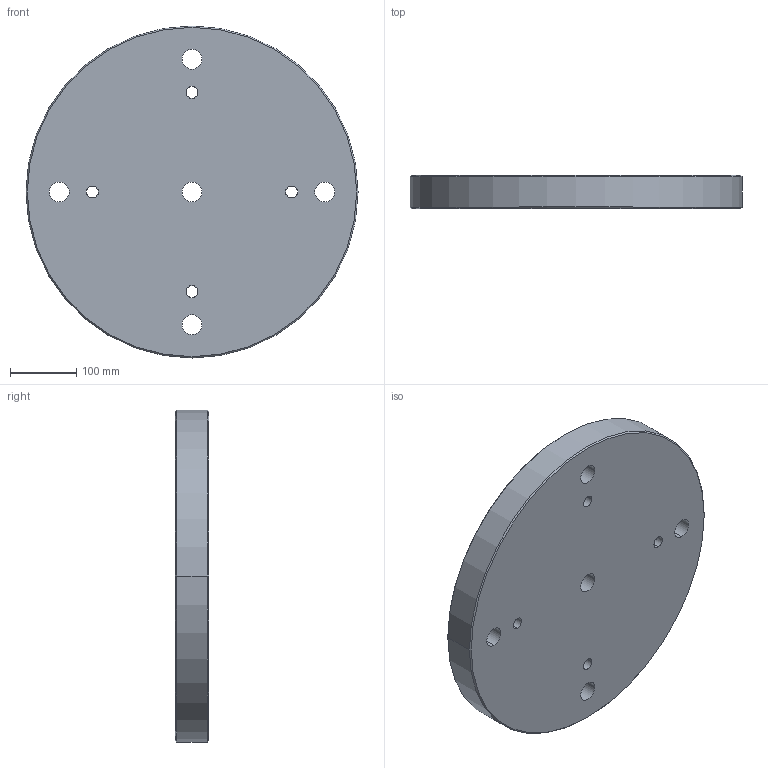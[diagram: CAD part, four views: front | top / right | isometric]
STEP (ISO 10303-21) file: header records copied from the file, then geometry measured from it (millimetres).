
FILE_DESCRIPTION((''),'2;1');
FILE_NAME('FG_WH_BASPL_RDPLNNP003','2026-05-18T09:38:16',('Admin'),(''),'CREO PARAMETRIC BY PTC INC, 2025010','CREO PARAMETRIC BY PTC INC, 2025010','');
FILE_SCHEMA(('CONFIG_CONTROL_DESIGN'));
Length unit declared in the file: millimetre
Products named in the file (1): FG_WH_BASPL_RDPLNNP003
Bounding box: 500 x 50 x 500 mm (x, y, z)
Volume: 9564250 mm3; surface area: 495074.5 mm2
Topology: 1 solids, 1 shells, 38 faces, 92 edges, 60 vertices
Faces by surface type: cylinder 28, plane 6, cone 4
Entity records: 1218 total; most frequent: DIRECTION 228, CARTESIAN_POINT 190, ORIENTED_EDGE 184, AXIS2_PLACEMENT_3D 98, EDGE_CURVE 92, VERTEX_POINT 60, EDGE_LOOP 60, CIRCLE 60
